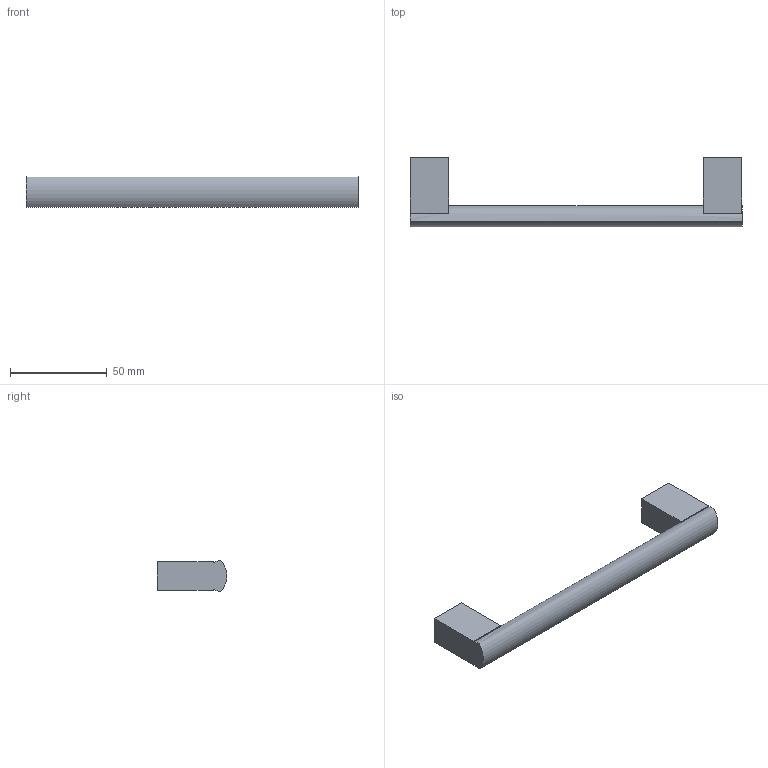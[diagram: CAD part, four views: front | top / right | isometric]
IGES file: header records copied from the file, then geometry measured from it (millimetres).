
Start section: Data from Parasolid IGES Translator 20.0.26, Copyright(c) 2006 Siemens P LM Software. All Rights Reserved.
Global section: file name: 115353.igs; native system: By Siemens PLM Incorporated; preprocessor: XPlus GENERIC/IGES 20.0.26; author: Noname; organization: Noname; date: 20230220.160504; units: millimetre
Bounding box: 172 x 35.96 x 16 mm (x, y, z)
Surface area: 11672.2 mm2 (no closed solid volume)
Topology: 0 solids, 0 shells, 22 faces, 102 edges, 100 vertices
Faces by surface type: extrusion 17, revolution 5
